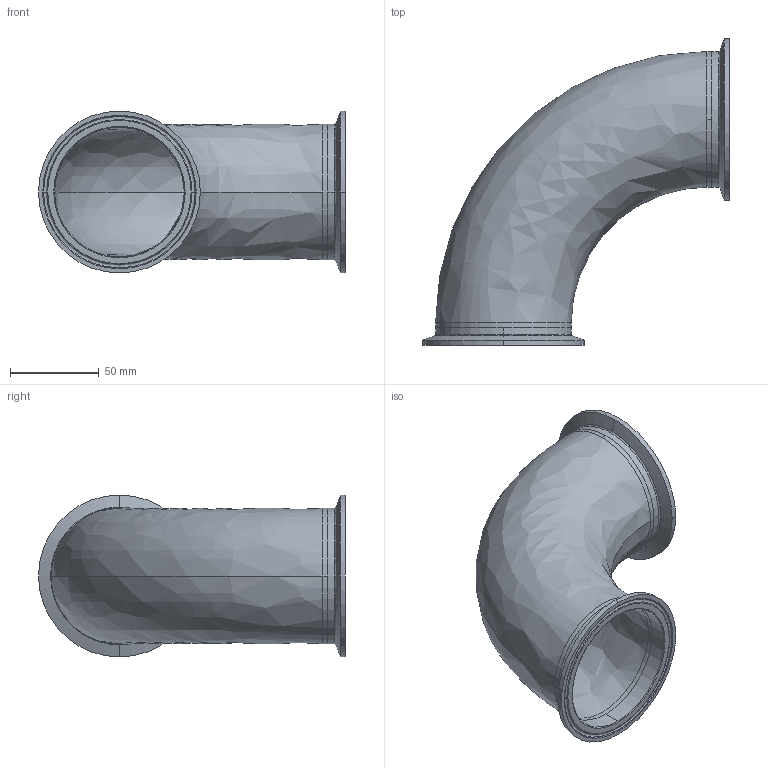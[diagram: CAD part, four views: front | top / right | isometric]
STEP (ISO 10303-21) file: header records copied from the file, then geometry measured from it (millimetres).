
FILE_DESCRIPTION (( 'STEP AP214' ), '1' );
FILE_NAME ('TEG2C6L3.0-...STEP', '2016-05-22T10:46:32', ( 'eran' ), ( '' ), 'SwSTEP 2.0', 'SolidWorks 2016', '' );
FILE_SCHEMA (( 'AUTOMOTIVE_DESIGN' ));
Length unit declared in the file: millimetre
Products named in the file (1): TEG2C6L3.0-..
Bounding box: 172.45 x 172.45 x 90.91 mm (x, y, z)
Volume: 94536 mm3; surface area: 105401.4 mm2
Topology: 3 solids, 3 shells, 64 faces, 162 edges, 106 vertices
Faces by surface type: bspline 24, cylinder 20, cone 12, plane 8
Entity records: 3466 total; most frequent: CARTESIAN_POINT 1861, DIRECTION 350, ORIENTED_EDGE 324, EDGE_CURVE 162, AXIS2_PLACEMENT_3D 159, CIRCLE 118, VERTEX_POINT 106, EDGE_LOOP 72
